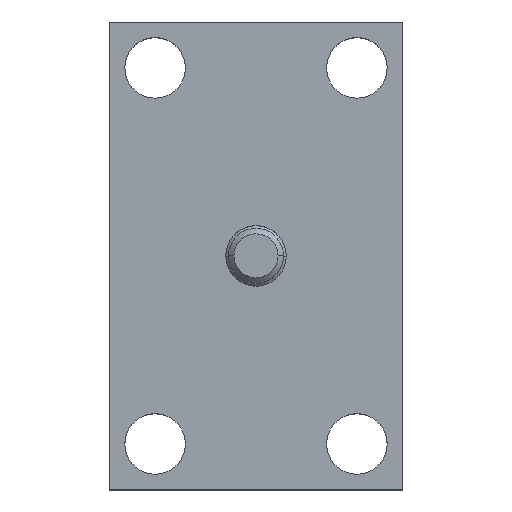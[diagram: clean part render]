
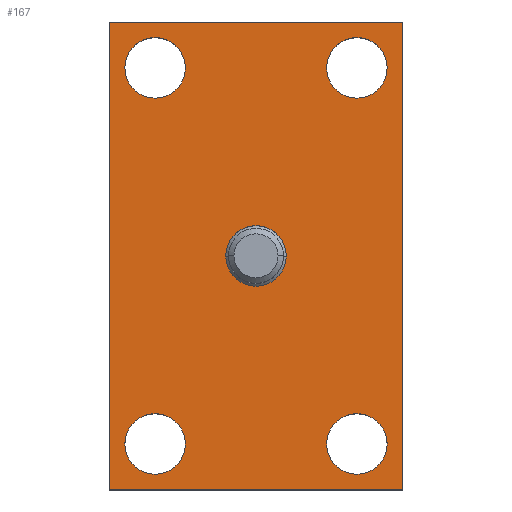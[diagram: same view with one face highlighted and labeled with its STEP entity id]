
A CAD part, top view. The second image highlights one B-rep face of the part: STEP entity #167.
In plain terms, the highlighted planar face has unit normal (0, 0, 1).
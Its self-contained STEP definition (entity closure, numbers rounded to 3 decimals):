
#117=CIRCLE('',#678,3.3);
#118=CIRCLE('',#679,3.3);
#119=CIRCLE('',#680,3.3);
#120=CIRCLE('',#681,3.3);
#121=CIRCLE('',#682,3.3);
#122=CIRCLE('',#683,3.3);
#123=CIRCLE('',#684,3.3);
#124=CIRCLE('',#685,3.3);
#125=CIRCLE('',#686,3.3);
#126=CIRCLE('',#687,3.3);
#149=FACE_BOUND('',#245,.T.);
#150=FACE_BOUND('',#246,.T.);
#151=FACE_BOUND('',#247,.T.);
#152=FACE_BOUND('',#248,.T.);
#153=FACE_BOUND('',#249,.T.);
#154=FACE_BOUND('',#250,.T.);
#167=ADVANCED_FACE('',(#149,#150,#151,#152,#153,#154),#200,.T.);
#200=PLANE('',#688);
#245=EDGE_LOOP('',(#301,#302,#303,#304));
#246=EDGE_LOOP('',(#305,#306));
#247=EDGE_LOOP('',(#307,#308));
#248=EDGE_LOOP('',(#309,#310));
#249=EDGE_LOOP('',(#311,#312));
#250=EDGE_LOOP('',(#313,#314));
#301=ORIENTED_EDGE('',*,*,#498,.T.);
#302=ORIENTED_EDGE('',*,*,#502,.T.);
#303=ORIENTED_EDGE('',*,*,#505,.T.);
#304=ORIENTED_EDGE('',*,*,#508,.T.);
#305=ORIENTED_EDGE('',*,*,#509,.T.);
#306=ORIENTED_EDGE('',*,*,#510,.T.);
#307=ORIENTED_EDGE('',*,*,#511,.T.);
#308=ORIENTED_EDGE('',*,*,#512,.T.);
#309=ORIENTED_EDGE('',*,*,#513,.T.);
#310=ORIENTED_EDGE('',*,*,#514,.T.);
#311=ORIENTED_EDGE('',*,*,#515,.T.);
#312=ORIENTED_EDGE('',*,*,#516,.T.);
#313=ORIENTED_EDGE('',*,*,#517,.T.);
#314=ORIENTED_EDGE('',*,*,#518,.T.);
#446=VERTEX_POINT('',#922);
#447=VERTEX_POINT('',#924);
#450=VERTEX_POINT('',#931);
#452=VERTEX_POINT('',#937);
#453=VERTEX_POINT('',#945);
#454=VERTEX_POINT('',#946);
#455=VERTEX_POINT('',#949);
#456=VERTEX_POINT('',#950);
#457=VERTEX_POINT('',#953);
#458=VERTEX_POINT('',#954);
#459=VERTEX_POINT('',#957);
#460=VERTEX_POINT('',#958);
#461=VERTEX_POINT('',#961);
#462=VERTEX_POINT('',#962);
#498=EDGE_CURVE('',#447,#446,#578,.T.);
#502=EDGE_CURVE('',#446,#450,#582,.T.);
#505=EDGE_CURVE('',#450,#452,#585,.T.);
#508=EDGE_CURVE('',#452,#447,#588,.T.);
#509=EDGE_CURVE('',#453,#454,#117,.T.);
#510=EDGE_CURVE('',#454,#453,#118,.T.);
#511=EDGE_CURVE('',#455,#456,#119,.T.);
#512=EDGE_CURVE('',#456,#455,#120,.T.);
#513=EDGE_CURVE('',#457,#458,#121,.T.);
#514=EDGE_CURVE('',#458,#457,#122,.T.);
#515=EDGE_CURVE('',#459,#460,#123,.T.);
#516=EDGE_CURVE('',#460,#459,#124,.T.);
#517=EDGE_CURVE('',#461,#462,#125,.T.);
#518=EDGE_CURVE('',#462,#461,#126,.T.);
#578=LINE('',#923,#626);
#582=LINE('',#932,#630);
#585=LINE('',#938,#633);
#588=LINE('',#942,#636);
#626=VECTOR('',#742,1.);
#630=VECTOR('',#748,1.);
#633=VECTOR('',#753,1.);
#636=VECTOR('',#758,1.);
#678=AXIS2_PLACEMENT_3D('',#944,#761,#762);
#679=AXIS2_PLACEMENT_3D('',#947,#763,#764);
#680=AXIS2_PLACEMENT_3D('',#948,#765,#766);
#681=AXIS2_PLACEMENT_3D('',#951,#767,#768);
#682=AXIS2_PLACEMENT_3D('',#952,#769,#770);
#683=AXIS2_PLACEMENT_3D('',#955,#771,#772);
#684=AXIS2_PLACEMENT_3D('',#956,#773,#774);
#685=AXIS2_PLACEMENT_3D('',#959,#775,#776);
#686=AXIS2_PLACEMENT_3D('',#960,#777,#778);
#687=AXIS2_PLACEMENT_3D('',#963,#779,#780);
#688=AXIS2_PLACEMENT_3D('',#964,#781,#782);
#742=DIRECTION('',(-1.,0.,0.));
#748=DIRECTION('',(0.,-1.,0.));
#753=DIRECTION('',(1.,0.,0.));
#758=DIRECTION('',(0.,1.,0.));
#761=DIRECTION('',(0.,0.,-1.));
#762=DIRECTION('',(-1.,0.,0.));
#763=DIRECTION('',(0.,0.,-1.));
#764=DIRECTION('',(1.,0.,0.));
#765=DIRECTION('',(0.,0.,-1.));
#766=DIRECTION('',(-1.,0.,0.));
#767=DIRECTION('',(0.,0.,-1.));
#768=DIRECTION('',(1.,0.,0.));
#769=DIRECTION('',(0.,0.,-1.));
#770=DIRECTION('',(-1.,0.,0.));
#771=DIRECTION('',(0.,0.,-1.));
#772=DIRECTION('',(1.,0.,0.));
#773=DIRECTION('',(0.,0.,-1.));
#774=DIRECTION('',(-1.,0.,0.));
#775=DIRECTION('',(0.,0.,-1.));
#776=DIRECTION('',(1.,0.,0.));
#777=DIRECTION('',(0.,0.,-1.));
#778=DIRECTION('',(-1.,0.,0.));
#779=DIRECTION('',(0.,0.,-1.));
#780=DIRECTION('',(1.,0.,0.));
#781=DIRECTION('',(0.,0.,1.));
#782=DIRECTION('',(-1.,0.,0.));
#922=CARTESIAN_POINT('',(-16.,25.5,9.));
#923=CARTESIAN_POINT('',(-16.,25.5,9.));
#924=CARTESIAN_POINT('',(16.,25.5,9.));
#931=CARTESIAN_POINT('',(-16.,-25.5,9.));
#932=CARTESIAN_POINT('',(-16.,25.5,9.));
#937=CARTESIAN_POINT('',(16.,-25.5,9.));
#938=CARTESIAN_POINT('',(-16.,-25.5,9.));
#942=CARTESIAN_POINT('',(16.,25.5,9.));
#944=CARTESIAN_POINT('',(11.,20.5,9.));
#945=CARTESIAN_POINT('',(11.,23.8,9.));
#946=CARTESIAN_POINT('',(11.,17.2,9.));
#947=CARTESIAN_POINT('',(11.,20.5,9.));
#948=CARTESIAN_POINT('',(-11.,20.5,9.));
#949=CARTESIAN_POINT('',(-11.,23.8,9.));
#950=CARTESIAN_POINT('',(-11.,17.2,9.));
#951=CARTESIAN_POINT('',(-11.,20.5,9.));
#952=CARTESIAN_POINT('',(11.,-20.5,9.));
#953=CARTESIAN_POINT('',(11.,-17.2,9.));
#954=CARTESIAN_POINT('',(11.,-23.8,9.));
#955=CARTESIAN_POINT('',(11.,-20.5,9.));
#956=CARTESIAN_POINT('',(-11.,-20.5,9.));
#957=CARTESIAN_POINT('',(-11.,-17.2,9.));
#958=CARTESIAN_POINT('',(-11.,-23.8,9.));
#959=CARTESIAN_POINT('',(-11.,-20.5,9.));
#960=CARTESIAN_POINT('',(0.,0.,9.));
#961=CARTESIAN_POINT('',(0.,3.3,9.));
#962=CARTESIAN_POINT('',(0.,-3.3,9.));
#963=CARTESIAN_POINT('',(0.,0.,9.));
#964=CARTESIAN_POINT('',(16.,25.5,9.));
